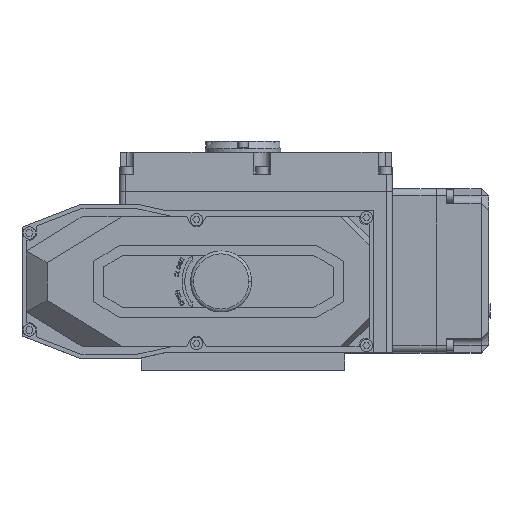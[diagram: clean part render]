
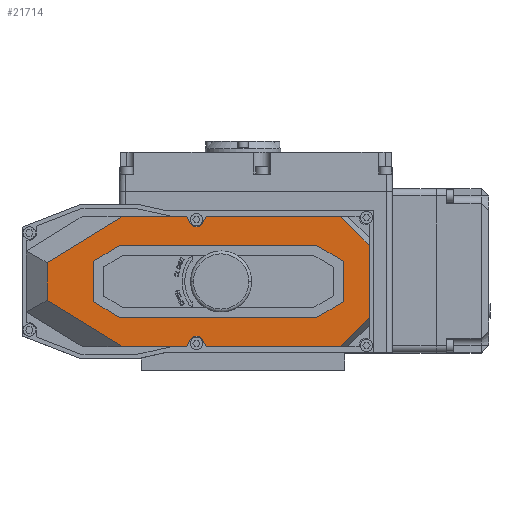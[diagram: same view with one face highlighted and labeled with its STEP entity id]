
A CAD part, top view. The second image highlights one B-rep face of the part: STEP entity #21714.
In plain terms, the highlighted planar face has unit normal (0, 0, 1).
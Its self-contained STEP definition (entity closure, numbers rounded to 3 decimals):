
#16252=DIRECTION('',(0.,-1.,0.));
#16253=VECTOR('',#16252,27.828);
#16254=CARTESIAN_POINT('',(-102.699,13.914,28.));
#16255=LINE('',#16254,#16253);
#16256=DIRECTION('',(0.852,-0.524,0.));
#16257=VECTOR('',#16256,20.819);
#16258=CARTESIAN_POINT('',(-102.699,-13.914,28.));
#16259=LINE('',#16258,#16257);
#16260=DIRECTION('',(1.,0.,0.));
#16261=VECTOR('',#16260,135.808);
#16262=CARTESIAN_POINT('',(-84.968,-24.825,28.));
#16263=LINE('',#16262,#16261);
#16264=DIRECTION('',(0.857,0.515,0.));
#16265=VECTOR('',#16264,21.186);
#16266=CARTESIAN_POINT('',(50.84,-24.825,28.));
#16267=LINE('',#16266,#16265);
#16268=DIRECTION('',(0.,1.,0.));
#16269=VECTOR('',#16268,27.828);
#16270=CARTESIAN_POINT('',(69.,-13.914,28.));
#16271=LINE('',#16270,#16269);
#16272=DIRECTION('',(-0.857,0.515,0.));
#16273=VECTOR('',#16272,21.186);
#16274=CARTESIAN_POINT('',(69.,13.914,28.));
#16275=LINE('',#16274,#16273);
#16276=DIRECTION('',(-1.,0.,0.));
#16277=VECTOR('',#16276,135.808);
#16278=CARTESIAN_POINT('',(50.84,24.825,28.));
#16279=LINE('',#16278,#16277);
#16280=DIRECTION('',(-0.852,-0.524,0.));
#16281=VECTOR('',#16280,20.819);
#16282=CARTESIAN_POINT('',(-84.968,24.825,28.));
#16283=LINE('',#16282,#16281);
#16284=DIRECTION('',(-0.423,-0.906,0.));
#16285=VECTOR('',#16284,4.897);
#16286=CARTESIAN_POINT('',(-25.399,44.825,28.));
#16287=LINE('',#16286,#16285);
#16288=DIRECTION('',(1.,0.,0.));
#16289=VECTOR('',#16288,92.426);
#16290=CARTESIAN_POINT('',(-25.399,44.825,28.));
#16291=LINE('',#16290,#16289);
#16292=DIRECTION('',(-0.707,0.707,0.));
#16293=VECTOR('',#16292,27.999);
#16294=CARTESIAN_POINT('',(86.825,25.027,28.));
#16295=LINE('',#16294,#16293);
#16296=DIRECTION('',(0.,1.,0.));
#16297=VECTOR('',#16296,50.054);
#16298=CARTESIAN_POINT('',(86.825,-25.027,28.));
#16299=LINE('',#16298,#16297);
#16300=DIRECTION('',(0.707,0.707,0.));
#16301=VECTOR('',#16300,27.999);
#16302=CARTESIAN_POINT('',(67.027,-44.825,28.));
#16303=LINE('',#16302,#16301);
#16304=DIRECTION('',(-1.,0.,0.));
#16305=VECTOR('',#16304,92.426);
#16306=CARTESIAN_POINT('',(67.027,-44.825,28.));
#16307=LINE('',#16306,#16305);
#16308=DIRECTION('',(-0.423,0.906,0.));
#16309=VECTOR('',#16308,4.897);
#16310=CARTESIAN_POINT('',(-25.399,-44.825,28.));
#16311=LINE('',#16310,#16309);
#16312=CARTESIAN_POINT('',(-32.,-42.5,28.));
#16313=DIRECTION('',(0.,0.,1.));
#16314=DIRECTION('',(0.906,0.423,0.));
#16315=AXIS2_PLACEMENT_3D('',#16312,#16313,#16314);
#16317=DIRECTION('',(0.423,0.906,0.));
#16318=VECTOR('',#16317,4.897);
#16319=CARTESIAN_POINT('',(-38.601,-44.825,28.));
#16320=LINE('',#16319,#16318);
#16321=DIRECTION('',(-1.,0.,0.));
#16322=VECTOR('',#16321,44.395);
#16323=CARTESIAN_POINT('',(-38.601,-44.825,28.));
#16324=LINE('',#16323,#16322);
#16325=DIRECTION('',(0.852,-0.524,0.));
#16326=VECTOR('',#16325,60.708);
#16327=CARTESIAN_POINT('',(-134.699,-13.009,28.));
#16328=LINE('',#16327,#16326);
#16329=DIRECTION('',(0.,-1.,0.));
#16330=VECTOR('',#16329,26.017);
#16331=CARTESIAN_POINT('',(-134.699,13.009,28.));
#16332=LINE('',#16331,#16330);
#16333=DIRECTION('',(-0.852,-0.524,0.));
#16334=VECTOR('',#16333,60.708);
#16335=CARTESIAN_POINT('',(-82.997,44.825,28.));
#16336=LINE('',#16335,#16334);
#16337=DIRECTION('',(1.,0.,0.));
#16338=VECTOR('',#16337,44.395);
#16339=CARTESIAN_POINT('',(-82.997,44.825,28.));
#16340=LINE('',#16339,#16338);
#16341=DIRECTION('',(0.423,-0.906,0.));
#16342=VECTOR('',#16341,4.897);
#16343=CARTESIAN_POINT('',(-38.601,44.825,28.));
#16344=LINE('',#16343,#16342);
#16345=CARTESIAN_POINT('',(-32.,42.5,28.));
#16346=DIRECTION('',(0.,0.,1.));
#16347=DIRECTION('',(-0.906,-0.423,0.));
#16348=AXIS2_PLACEMENT_3D('',#16345,#16346,#16347);
#19966=CARTESIAN_POINT('',(-134.699,13.009,28.));
#19967=CARTESIAN_POINT('',(-134.699,-13.009,28.));
#19968=VERTEX_POINT('',#19966);
#19969=VERTEX_POINT('',#19967);
#19971=CARTESIAN_POINT('',(-82.997,-44.825,28.));
#19973=VERTEX_POINT('',#19971);
#19974=CARTESIAN_POINT('',(-82.997,44.825,28.));
#19976=VERTEX_POINT('',#19974);
#19978=CARTESIAN_POINT('',(86.825,-25.027,28.));
#19980=VERTEX_POINT('',#19978);
#19983=CARTESIAN_POINT('',(67.027,-44.825,28.));
#19985=VERTEX_POINT('',#19983);
#19986=CARTESIAN_POINT('',(67.027,44.825,28.));
#19988=VERTEX_POINT('',#19986);
#19991=CARTESIAN_POINT('',(86.825,25.027,28.));
#19993=VERTEX_POINT('',#19991);
#20006=CARTESIAN_POINT('',(-102.699,13.914,28.));
#20007=CARTESIAN_POINT('',(-102.699,-13.914,28.));
#20008=VERTEX_POINT('',#20006);
#20009=VERTEX_POINT('',#20007);
#20010=CARTESIAN_POINT('',(-84.968,-24.825,28.));
#20011=VERTEX_POINT('',#20010);
#20012=CARTESIAN_POINT('',(50.84,-24.825,28.));
#20013=VERTEX_POINT('',#20012);
#20014=CARTESIAN_POINT('',(50.84,24.825,28.));
#20015=CARTESIAN_POINT('',(-84.968,24.825,28.));
#20016=VERTEX_POINT('',#20014);
#20017=VERTEX_POINT('',#20015);
#21110=CARTESIAN_POINT('',(69.,-13.914,28.));
#21111=VERTEX_POINT('',#21110);
#21112=CARTESIAN_POINT('',(69.,13.914,28.));
#21113=VERTEX_POINT('',#21112);
#21146=CARTESIAN_POINT('',(-25.399,44.825,28.));
#21147=CARTESIAN_POINT('',(-27.468,40.387,28.));
#21148=VERTEX_POINT('',#21146);
#21149=VERTEX_POINT('',#21147);
#21150=CARTESIAN_POINT('',(-38.601,44.825,28.));
#21151=CARTESIAN_POINT('',(-36.532,40.387,28.));
#21152=VERTEX_POINT('',#21150);
#21153=VERTEX_POINT('',#21151);
#21154=CARTESIAN_POINT('',(-27.468,-40.387,28.));
#21155=CARTESIAN_POINT('',(-36.532,-40.387,28.));
#21156=VERTEX_POINT('',#21154);
#21157=VERTEX_POINT('',#21155);
#21158=CARTESIAN_POINT('',(-38.601,-44.825,28.));
#21159=VERTEX_POINT('',#21158);
#21160=CARTESIAN_POINT('',(-25.399,-44.825,28.));
#21161=VERTEX_POINT('',#21160);
#21662=CARTESIAN_POINT('',(0.,0.,28.));
#21663=DIRECTION('',(0.,0.,1.));
#21664=DIRECTION('',(1.,0.,0.));
#21665=AXIS2_PLACEMENT_3D('',#21662,#21663,#21664);
#21666=PLANE('',#21665);
#21668=ORIENTED_EDGE('',*,*,#21667,.F.);
#21670=ORIENTED_EDGE('',*,*,#21669,.T.);
#21672=ORIENTED_EDGE('',*,*,#21671,.F.);
#21673=ORIENTED_EDGE('',*,*,#21653,.F.);
#21674=ORIENTED_EDGE('',*,*,#21642,.F.);
#21676=ORIENTED_EDGE('',*,*,#21675,.T.);
#21677=ORIENTED_EDGE('',*,*,#21542,.T.);
#21678=ORIENTED_EDGE('',*,*,#21558,.T.);
#21679=ORIENTED_EDGE('',*,*,#21575,.F.);
#21681=ORIENTED_EDGE('',*,*,#21680,.T.);
#21683=ORIENTED_EDGE('',*,*,#21682,.F.);
#21685=ORIENTED_EDGE('',*,*,#21684,.F.);
#21687=ORIENTED_EDGE('',*,*,#21686,.F.);
#21689=ORIENTED_EDGE('',*,*,#21688,.T.);
#21691=ORIENTED_EDGE('',*,*,#21690,.T.);
#21693=ORIENTED_EDGE('',*,*,#21692,.T.);
#21694=EDGE_LOOP('',(#21668,#21670,#21672,#21673,#21674,#21676,#21677,#21678,
#21679,#21681,#21683,#21685,#21687,#21689,#21691,#21693));
#21695=FACE_OUTER_BOUND('',#21694,.F.);
#21697=ORIENTED_EDGE('',*,*,#21696,.T.);
#21699=ORIENTED_EDGE('',*,*,#21698,.T.);
#21701=ORIENTED_EDGE('',*,*,#21700,.T.);
#21703=ORIENTED_EDGE('',*,*,#21702,.T.);
#21705=ORIENTED_EDGE('',*,*,#21704,.T.);
#21707=ORIENTED_EDGE('',*,*,#21706,.T.);
#21709=ORIENTED_EDGE('',*,*,#21708,.T.);
#21711=ORIENTED_EDGE('',*,*,#21710,.T.);
#21712=EDGE_LOOP('',(#21697,#21699,#21701,#21703,#21705,#21707,#21709,#21711));
#21713=FACE_BOUND('',#21712,.F.);
#21714=ADVANCED_FACE('',(#21695,#21713),#21666,.T.);
#16316=CIRCLE('',#16315,5.);
#16349=CIRCLE('',#16348,5.);
#21542=EDGE_CURVE('',#21161,#21156,#16311,.T.);
#21558=EDGE_CURVE('',#21156,#21157,#16316,.T.);
#21575=EDGE_CURVE('',#21159,#21157,#16320,.T.);
#21642=EDGE_CURVE('',#19985,#19980,#16303,.T.);
#21653=EDGE_CURVE('',#19980,#19993,#16299,.T.);
#21667=EDGE_CURVE('',#21148,#21149,#16287,.T.);
#21669=EDGE_CURVE('',#21148,#19988,#16291,.T.);
#21671=EDGE_CURVE('',#19993,#19988,#16295,.T.);
#21675=EDGE_CURVE('',#19985,#21161,#16307,.T.);
#21680=EDGE_CURVE('',#21159,#19973,#16324,.T.);
#21682=EDGE_CURVE('',#19969,#19973,#16328,.T.);
#21684=EDGE_CURVE('',#19968,#19969,#16332,.T.);
#21686=EDGE_CURVE('',#19976,#19968,#16336,.T.);
#21688=EDGE_CURVE('',#19976,#21152,#16340,.T.);
#21690=EDGE_CURVE('',#21152,#21153,#16344,.T.);
#21692=EDGE_CURVE('',#21153,#21149,#16349,.T.);
#21696=EDGE_CURVE('',#20008,#20009,#16255,.T.);
#21698=EDGE_CURVE('',#20009,#20011,#16259,.T.);
#21700=EDGE_CURVE('',#20011,#20013,#16263,.T.);
#21702=EDGE_CURVE('',#20013,#21111,#16267,.T.);
#21704=EDGE_CURVE('',#21111,#21113,#16271,.T.);
#21706=EDGE_CURVE('',#21113,#20016,#16275,.T.);
#21708=EDGE_CURVE('',#20016,#20017,#16279,.T.);
#21710=EDGE_CURVE('',#20017,#20008,#16283,.T.);
